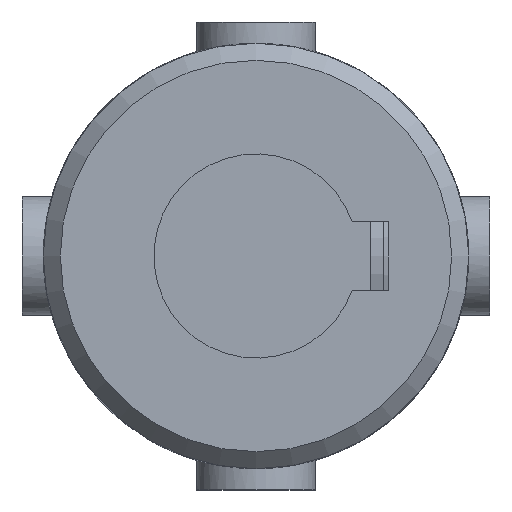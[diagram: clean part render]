
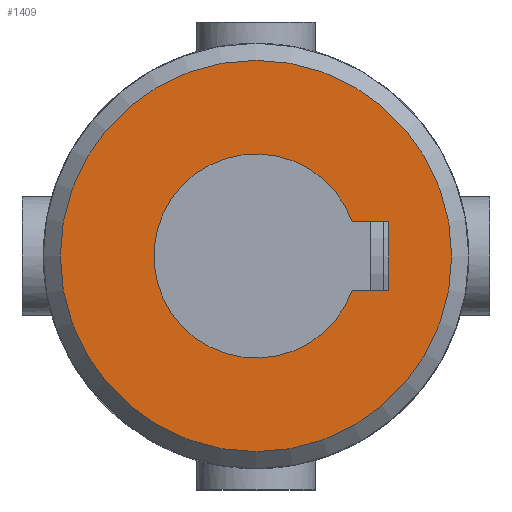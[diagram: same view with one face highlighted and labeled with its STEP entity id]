
A CAD part, left-side view. The second image highlights one B-rep face of the part: STEP entity #1409.
In plain terms, the highlighted planar face has unit normal (-1, 0, 0) as drawn and (0, -1, 0) by its records, which use the part's own axes.
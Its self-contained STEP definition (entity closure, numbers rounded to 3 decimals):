
#110=LINE('',#2711,#167);
#115=LINE('',#2728,#172);
#116=LINE('',#2741,#173);
#167=VECTOR('',#1831,2.143);
#172=VECTOR('',#1842,2.143);
#173=VECTOR('',#1845,4.);
#219=PLANE('',#1546);
#332=FACE_BOUND('',#513,.T.);
#400=FACE_OUTER_BOUND('',#512,.T.);
#512=EDGE_LOOP('',(#1228));
#513=EDGE_LOOP('',(#1229,#1230,#1231,#1232));
#577=CIRCLE('',#1534,6.);
#582=CIRCLE('',#1544,11.5);
#692=VERTEX_POINT('',#2700);
#693=VERTEX_POINT('',#2702);
#695=VERTEX_POINT('',#2710);
#701=VERTEX_POINT('',#2726);
#703=VERTEX_POINT('',#2747);
#868=EDGE_CURVE('',#693,#692,#577,.T.);
#871=EDGE_CURVE('',#695,#693,#110,.T.);
#879=EDGE_CURVE('',#692,#701,#115,.T.);
#881=EDGE_CURVE('',#701,#695,#116,.T.);
#884=EDGE_CURVE('',#703,#703,#582,.T.);
#1228=ORIENTED_EDGE('',*,*,#884,.F.);
#1229=ORIENTED_EDGE('',*,*,#879,.T.);
#1230=ORIENTED_EDGE('',*,*,#881,.T.);
#1231=ORIENTED_EDGE('',*,*,#871,.T.);
#1232=ORIENTED_EDGE('',*,*,#868,.T.);
#1409=ADVANCED_FACE('',(#400,#332),#219,.F.);
#1534=AXIS2_PLACEMENT_3D('',#2703,#1826,#1827);
#1544=AXIS2_PLACEMENT_3D('',#2748,#1854,#1855);
#1546=AXIS2_PLACEMENT_3D('',#2916,#1862,#1863);
#1826=DIRECTION('center_axis',(0.,1.,0.));
#1827=DIRECTION('ref_axis',(0.333,0.,-0.943));
#1831=DIRECTION('',(0.,0.,1.));
#1842=DIRECTION('',(0.,0.,-1.));
#1845=DIRECTION('',(-1.,0.,0.));
#1854=DIRECTION('center_axis',(0.,1.,0.));
#1855=DIRECTION('ref_axis',(1.,0.,0.));
#1862=DIRECTION('center_axis',(0.,1.,0.));
#1863=DIRECTION('ref_axis',(0.,0.,1.));
#2700=CARTESIAN_POINT('',(2.,-34.5,-5.657));
#2702=CARTESIAN_POINT('',(-2.,-34.5,-5.657));
#2703=CARTESIAN_POINT('Origin',(0.,-34.5,0.));
#2710=CARTESIAN_POINT('',(-2.,-34.5,-7.8));
#2711=CARTESIAN_POINT('',(-2.,-34.5,-3.9));
#2726=CARTESIAN_POINT('',(2.,-34.5,-7.8));
#2728=CARTESIAN_POINT('',(2.,-34.5,-2.828));
#2741=CARTESIAN_POINT('',(1.,-34.5,-7.8));
#2747=CARTESIAN_POINT('',(-11.5,-34.5,0.));
#2748=CARTESIAN_POINT('Origin',(0.,-34.5,0.));
#2916=CARTESIAN_POINT('Origin',(0.,-34.5,0.));
